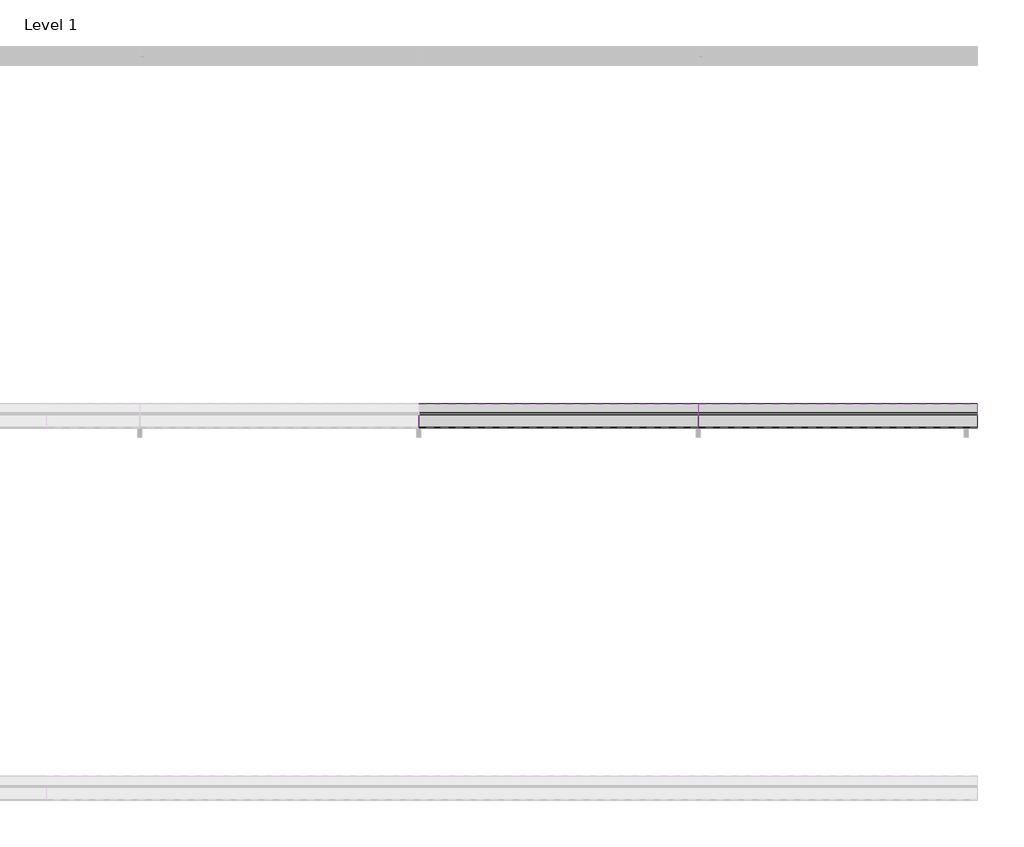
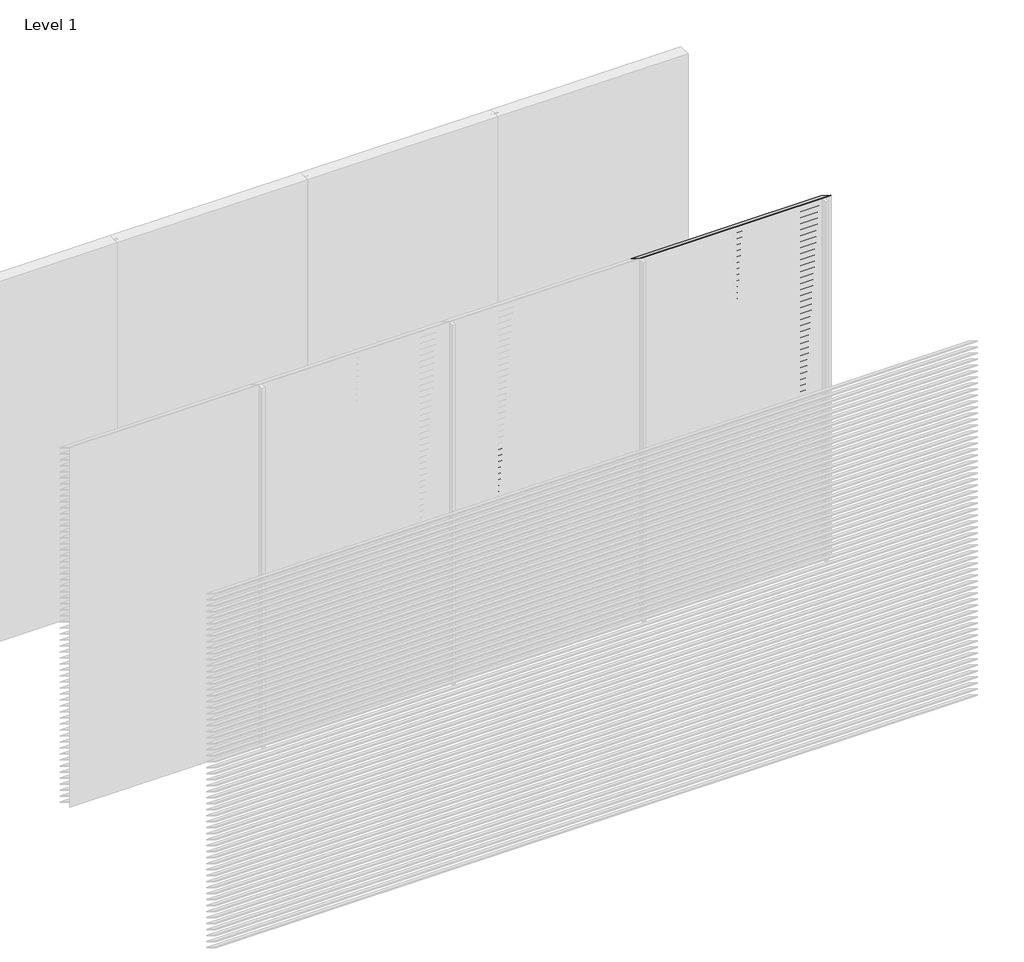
# One storey, part 10 of 13: 96 proxies.
"""IFC4 building model written with IfcOpenShell, lengths in millimetres."""

from ifc_helpers import new_model, si_unit, frame, origin, place, context, project, spatial, polyline, outline, extrude, element, save

model = new_model("IFC4")

# Units and contexts
model_context = context("Model", 3, world=origin())
ifc_project = project(units=[si_unit("LENGTHUNIT", "METRE", prefix="MILLI")], contexts=[model_context])

# Site, building, storey
site = spatial("IfcSite", under=ifc_project)
building = spatial("IfcBuilding", under=site)
storey = spatial("IfcBuildingStorey", under=building, Name="Level 1", Elevation=0.0)

# Proxies
placement = place(None, origin())
element("IfcBuildingElementProxy", 1, Name="Wall Sweeps", at=placement, inside=storey, context=model_context, shape_type="SweptSolid", body=[
    extrude(outline(polyline([(-5995.0, 1800.0), (-5995.0, 1798.0), (-5868.0, 1719.0), (-5868.0, 1713.0), (-5997.0, 1793.2440945), (-5997.0, 1800.0), (-5995.0, 1800.0)])), frame((3000.0, 0.0, 0.0), z_axis=(1.0, 0.0, 0.0), x_axis=(0.0, 1.0, 0.0)), (0.0, 0.0, 1.0), 1500.0),
])
element("IfcBuildingElementProxy", 2, Name="Wall Sweeps", at=placement, inside=storey, context=model_context, shape_type="SweptSolid", body=[
    extrude(outline(polyline([(-5995.0, 1750.0), (-5995.0, 1748.0), (-5868.0, 1669.0), (-5868.0, 1663.0), (-5997.0, 1743.2440945), (-5997.0, 1750.0), (-5995.0, 1750.0)])), frame((3000.0, 0.0, 0.0), z_axis=(1.0, 0.0, 0.0), x_axis=(0.0, 1.0, 0.0)), (0.0, 0.0, 1.0), 1500.0),
])
element("IfcBuildingElementProxy", 3, Name="Wall Sweeps", at=placement, inside=storey, context=model_context, shape_type="SweptSolid", body=[
    extrude(outline(polyline([(-5995.0, 1700.0), (-5995.0, 1698.0), (-5868.0, 1619.0), (-5868.0, 1613.0), (-5997.0, 1693.2440945), (-5997.0, 1700.0), (-5995.0, 1700.0)])), frame((3000.0, 0.0, 0.0), z_axis=(1.0, 0.0, 0.0), x_axis=(0.0, 1.0, 0.0)), (0.0, 0.0, 1.0), 1500.0),
])
element("IfcBuildingElementProxy", 4, Name="Wall Sweeps", at=placement, inside=storey, context=model_context, shape_type="SweptSolid", body=[
    extrude(outline(polyline([(-5995.0, 1650.0), (-5995.0, 1648.0), (-5868.0, 1569.0), (-5868.0, 1563.0), (-5997.0, 1643.2440945), (-5997.0, 1650.0), (-5995.0, 1650.0)])), frame((3000.0, 0.0, 0.0), z_axis=(1.0, 0.0, 0.0), x_axis=(0.0, 1.0, 0.0)), (0.0, 0.0, 1.0), 1500.0),
])
element("IfcBuildingElementProxy", 5, Name="Wall Sweeps", at=placement, inside=storey, context=model_context, shape_type="SweptSolid", body=[
    extrude(outline(polyline([(-5995.0, 1600.0), (-5995.0, 1598.0), (-5868.0, 1519.0), (-5868.0, 1513.0), (-5997.0, 1593.2440945), (-5997.0, 1600.0), (-5995.0, 1600.0)])), frame((3000.0, 0.0, 0.0), z_axis=(1.0, 0.0, 0.0), x_axis=(0.0, 1.0, 0.0)), (0.0, 0.0, 1.0), 1500.0),
])
element("IfcBuildingElementProxy", 6, Name="Wall Sweeps", at=placement, inside=storey, context=model_context, shape_type="SweptSolid", body=[
    extrude(outline(polyline([(-5995.0, 1550.0), (-5995.0, 1548.0), (-5868.0, 1469.0), (-5868.0, 1463.0), (-5997.0, 1543.2440945), (-5997.0, 1550.0), (-5995.0, 1550.0)])), frame((3000.0, 0.0, 0.0), z_axis=(1.0, 0.0, 0.0), x_axis=(0.0, 1.0, 0.0)), (0.0, 0.0, 1.0), 1500.0),
])
element("IfcBuildingElementProxy", 7, Name="Wall Sweeps", at=placement, inside=storey, context=model_context, shape_type="SweptSolid", body=[
    extrude(outline(polyline([(-5995.0, 1500.0), (-5995.0, 1498.0), (-5868.0, 1419.0), (-5868.0, 1413.0), (-5997.0, 1493.2440945), (-5997.0, 1500.0), (-5995.0, 1500.0)])), frame((3000.0, 0.0, 0.0), z_axis=(1.0, 0.0, 0.0), x_axis=(0.0, 1.0, 0.0)), (0.0, 0.0, 1.0), 1500.0),
])
element("IfcBuildingElementProxy", 8, Name="Wall Sweeps", at=placement, inside=storey, context=model_context, shape_type="SweptSolid", body=[
    extrude(outline(polyline([(-5995.0, 1450.0), (-5995.0, 1448.0), (-5868.0, 1369.0), (-5868.0, 1363.0), (-5997.0, 1443.2440945), (-5997.0, 1450.0), (-5995.0, 1450.0)])), frame((3000.0, 0.0, 0.0), z_axis=(1.0, 0.0, 0.0), x_axis=(0.0, 1.0, 0.0)), (0.0, 0.0, 1.0), 1500.0),
])
element("IfcBuildingElementProxy", 9, Name="Wall Sweeps", at=placement, inside=storey, context=model_context, shape_type="SweptSolid", body=[
    extrude(outline(polyline([(-5995.0, 1400.0), (-5995.0, 1398.0), (-5868.0, 1319.0), (-5868.0, 1313.0), (-5997.0, 1393.2440945), (-5997.0, 1400.0), (-5995.0, 1400.0)])), frame((3000.0, 0.0, 0.0), z_axis=(1.0, 0.0, 0.0), x_axis=(0.0, 1.0, 0.0)), (0.0, 0.0, 1.0), 1500.0),
])
element("IfcBuildingElementProxy", 10, Name="Wall Sweeps", at=placement, inside=storey, context=model_context, shape_type="SweptSolid", body=[
    extrude(outline(polyline([(-5995.0, 1350.0), (-5995.0, 1348.0), (-5868.0, 1269.0), (-5868.0, 1263.0), (-5997.0, 1343.2440945), (-5997.0, 1350.0), (-5995.0, 1350.0)])), frame((3000.0, 0.0, 0.0), z_axis=(1.0, 0.0, 0.0), x_axis=(0.0, 1.0, 0.0)), (0.0, 0.0, 1.0), 1500.0),
])
element("IfcBuildingElementProxy", 11, Name="Wall Sweeps", at=placement, inside=storey, context=model_context, shape_type="SweptSolid", body=[
    extrude(outline(polyline([(-5995.0, 1300.0), (-5995.0, 1298.0), (-5868.0, 1219.0), (-5868.0, 1213.0), (-5997.0, 1293.2440945), (-5997.0, 1300.0), (-5995.0, 1300.0)])), frame((3000.0, 0.0, 0.0), z_axis=(1.0, 0.0, 0.0), x_axis=(0.0, 1.0, 0.0)), (0.0, 0.0, 1.0), 1500.0),
])
element("IfcBuildingElementProxy", 12, Name="Wall Sweeps", at=placement, inside=storey, context=model_context, shape_type="SweptSolid", body=[
    extrude(outline(polyline([(-5995.0, 1250.0), (-5995.0, 1248.0), (-5868.0, 1169.0), (-5868.0, 1163.0), (-5997.0, 1243.2440945), (-5997.0, 1250.0), (-5995.0, 1250.0)])), frame((3000.0, 0.0, 0.0), z_axis=(1.0, 0.0, 0.0), x_axis=(0.0, 1.0, 0.0)), (0.0, 0.0, 1.0), 1500.0),
])
element("IfcBuildingElementProxy", 13, Name="Wall Sweeps", at=placement, inside=storey, context=model_context, shape_type="SweptSolid", body=[
    extrude(outline(polyline([(-5995.0, 1200.0), (-5995.0, 1198.0), (-5868.0, 1119.0), (-5868.0, 1113.0), (-5997.0, 1193.2440945), (-5997.0, 1200.0), (-5995.0, 1200.0)])), frame((3000.0, 0.0, 0.0), z_axis=(1.0, 0.0, 0.0), x_axis=(0.0, 1.0, 0.0)), (0.0, 0.0, 1.0), 1500.0),
])
element("IfcBuildingElementProxy", 14, Name="Wall Sweeps", at=placement, inside=storey, context=model_context, shape_type="SweptSolid", body=[
    extrude(outline(polyline([(-5995.0, 1150.0), (-5995.0, 1148.0), (-5868.0, 1069.0), (-5868.0, 1063.0), (-5997.0, 1143.2440945), (-5997.0, 1150.0), (-5995.0, 1150.0)])), frame((3000.0, 0.0, 0.0), z_axis=(1.0, 0.0, 0.0), x_axis=(0.0, 1.0, 0.0)), (0.0, 0.0, 1.0), 1500.0),
])
element("IfcBuildingElementProxy", 15, Name="Wall Sweeps", at=placement, inside=storey, context=model_context, shape_type="SweptSolid", body=[
    extrude(outline(polyline([(-5995.0, 1100.0), (-5995.0, 1098.0), (-5868.0, 1019.0), (-5868.0, 1013.0), (-5997.0, 1093.2440945), (-5997.0, 1100.0), (-5995.0, 1100.0)])), frame((3000.0, 0.0, 0.0), z_axis=(1.0, 0.0, 0.0), x_axis=(0.0, 1.0, 0.0)), (0.0, 0.0, 1.0), 1500.0),
])
element("IfcBuildingElementProxy", 16, Name="Wall Sweeps", at=placement, inside=storey, context=model_context, shape_type="SweptSolid", body=[
    extrude(outline(polyline([(-5995.0, 1050.0), (-5995.0, 1048.0), (-5868.0, 969.0), (-5868.0, 963.0), (-5997.0, 1043.2440945), (-5997.0, 1050.0), (-5995.0, 1050.0)])), frame((3000.0, 0.0, 0.0), z_axis=(1.0, 0.0, 0.0), x_axis=(0.0, 1.0, 0.0)), (0.0, 0.0, 1.0), 1500.0),
])
element("IfcBuildingElementProxy", 17, Name="Wall Sweeps", at=placement, inside=storey, context=model_context, shape_type="SweptSolid", body=[
    extrude(outline(polyline([(-5995.0, 1000.0), (-5995.0, 998.0), (-5868.0, 919.0), (-5868.0, 913.0), (-5997.0, 993.2440945), (-5997.0, 1000.0), (-5995.0, 1000.0)])), frame((3000.0, 0.0, 0.0), z_axis=(1.0, 0.0, 0.0), x_axis=(0.0, 1.0, 0.0)), (0.0, 0.0, 1.0), 1500.0),
])
element("IfcBuildingElementProxy", 18, Name="Wall Sweeps", at=placement, inside=storey, context=model_context, shape_type="SweptSolid", body=[
    extrude(outline(polyline([(-5995.0, 950.0), (-5995.0, 948.0), (-5868.0, 869.0), (-5868.0, 863.0), (-5997.0, 943.2440945), (-5997.0, 950.0), (-5995.0, 950.0)])), frame((3000.0, 0.0, 0.0), z_axis=(1.0, 0.0, 0.0), x_axis=(0.0, 1.0, 0.0)), (0.0, 0.0, 1.0), 1500.0),
])
element("IfcBuildingElementProxy", 19, Name="Wall Sweeps", at=placement, inside=storey, context=model_context, shape_type="SweptSolid", body=[
    extrude(outline(polyline([(-5995.0, 900.0), (-5995.0, 898.0), (-5868.0, 819.0), (-5868.0, 813.0), (-5997.0, 893.2440945), (-5997.0, 900.0), (-5995.0, 900.0)])), frame((3000.0, 0.0, 0.0), z_axis=(1.0, 0.0, 0.0), x_axis=(0.0, 1.0, 0.0)), (0.0, 0.0, 1.0), 1500.0),
])
element("IfcBuildingElementProxy", 20, Name="Wall Sweeps", at=placement, inside=storey, context=model_context, shape_type="SweptSolid", body=[
    extrude(outline(polyline([(-5995.0, 850.0), (-5995.0, 848.0), (-5868.0, 769.0), (-5868.0, 763.0), (-5997.0, 843.2440945), (-5997.0, 850.0), (-5995.0, 850.0)])), frame((3000.0, 0.0, 0.0), z_axis=(1.0, 0.0, 0.0), x_axis=(0.0, 1.0, 0.0)), (0.0, 0.0, 1.0), 1500.0),
])
element("IfcBuildingElementProxy", 21, Name="Wall Sweeps", at=placement, inside=storey, context=model_context, shape_type="SweptSolid", body=[
    extrude(outline(polyline([(-5995.0, 800.0), (-5995.0, 798.0), (-5868.0, 719.0), (-5868.0, 713.0), (-5997.0, 793.2440945), (-5997.0, 800.0), (-5995.0, 800.0)])), frame((3000.0, 0.0, 0.0), z_axis=(1.0, 0.0, 0.0), x_axis=(0.0, 1.0, 0.0)), (0.0, 0.0, 1.0), 1500.0),
])
element("IfcBuildingElementProxy", 22, Name="Wall Sweeps", at=placement, inside=storey, context=model_context, shape_type="SweptSolid", body=[
    extrude(outline(polyline([(-5995.0, 750.0), (-5995.0, 748.0), (-5868.0, 669.0), (-5868.0, 663.0), (-5997.0, 743.2440945), (-5997.0, 750.0), (-5995.0, 750.0)])), frame((3000.0, 0.0, 0.0), z_axis=(1.0, 0.0, 0.0), x_axis=(0.0, 1.0, 0.0)), (0.0, 0.0, 1.0), 1500.0),
])
element("IfcBuildingElementProxy", 23, Name="Wall Sweeps", at=placement, inside=storey, context=model_context, shape_type="SweptSolid", body=[
    extrude(outline(polyline([(-5995.0, 700.0), (-5995.0, 698.0), (-5868.0, 619.0), (-5868.0, 613.0), (-5997.0, 693.2440945), (-5997.0, 700.0), (-5995.0, 700.0)])), frame((3000.0, 0.0, 0.0), z_axis=(1.0, 0.0, 0.0), x_axis=(0.0, 1.0, 0.0)), (0.0, 0.0, 1.0), 1500.0),
])
element("IfcBuildingElementProxy", 24, Name="Wall Sweeps", at=placement, inside=storey, context=model_context, shape_type="SweptSolid", body=[
    extrude(outline(polyline([(-5995.0, 650.0), (-5995.0, 648.0), (-5868.0, 569.0), (-5868.0, 563.0), (-5997.0, 643.2440945), (-5997.0, 650.0), (-5995.0, 650.0)])), frame((3000.0, 0.0, 0.0), z_axis=(1.0, 0.0, 0.0), x_axis=(0.0, 1.0, 0.0)), (0.0, 0.0, 1.0), 1500.0),
])
element("IfcBuildingElementProxy", 25, Name="Wall Sweeps", at=placement, inside=storey, context=model_context, shape_type="SweptSolid", body=[
    extrude(outline(polyline([(-5995.0, 600.0), (-5995.0, 598.0), (-5868.0, 519.0), (-5868.0, 513.0), (-5997.0, 593.2440945), (-5997.0, 600.0), (-5995.0, 600.0)])), frame((3000.0, 0.0, 0.0), z_axis=(1.0, 0.0, 0.0), x_axis=(0.0, 1.0, 0.0)), (0.0, 0.0, 1.0), 1500.0),
])
element("IfcBuildingElementProxy", 26, Name="Wall Sweeps", at=placement, inside=storey, context=model_context, shape_type="SweptSolid", body=[
    extrude(outline(polyline([(-5995.0, 550.0), (-5995.0, 548.0), (-5868.0, 469.0), (-5868.0, 463.0), (-5997.0, 543.2440945), (-5997.0, 550.0), (-5995.0, 550.0)])), frame((3000.0, 0.0, 0.0), z_axis=(1.0, 0.0, 0.0), x_axis=(0.0, 1.0, 0.0)), (0.0, 0.0, 1.0), 1500.0),
])
element("IfcBuildingElementProxy", 27, Name="Wall Sweeps", at=placement, inside=storey, context=model_context, shape_type="SweptSolid", body=[
    extrude(outline(polyline([(-5995.0, 500.0), (-5995.0, 498.0), (-5868.0, 419.0), (-5868.0, 413.0), (-5997.0, 493.2440945), (-5997.0, 500.0), (-5995.0, 500.0)])), frame((3000.0, 0.0, 0.0), z_axis=(1.0, 0.0, 0.0), x_axis=(0.0, 1.0, 0.0)), (0.0, 0.0, 1.0), 1500.0),
])
element("IfcBuildingElementProxy", 28, Name="Wall Sweeps", at=placement, inside=storey, context=model_context, shape_type="SweptSolid", body=[
    extrude(outline(polyline([(-5995.0, 450.0), (-5995.0, 448.0), (-5868.0, 369.0), (-5868.0, 363.0), (-5997.0, 443.2440945), (-5997.0, 450.0), (-5995.0, 450.0)])), frame((3000.0, 0.0, 0.0), z_axis=(1.0, 0.0, 0.0), x_axis=(0.0, 1.0, 0.0)), (0.0, 0.0, 1.0), 1500.0),
])
element("IfcBuildingElementProxy", 29, Name="Wall Sweeps", at=placement, inside=storey, context=model_context, shape_type="SweptSolid", body=[
    extrude(outline(polyline([(-5995.0, 400.0), (-5995.0, 398.0), (-5868.0, 319.0), (-5868.0, 313.0), (-5997.0, 393.2440945), (-5997.0, 400.0), (-5995.0, 400.0)])), frame((3000.0, 0.0, 0.0), z_axis=(1.0, 0.0, 0.0), x_axis=(0.0, 1.0, 0.0)), (0.0, 0.0, 1.0), 1500.0),
])
element("IfcBuildingElementProxy", 30, Name="Wall Sweeps", at=placement, inside=storey, context=model_context, shape_type="SweptSolid", body=[
    extrude(outline(polyline([(-5995.0, 350.0), (-5995.0, 348.0), (-5868.0, 269.0), (-5868.0, 263.0), (-5997.0, 343.2440945), (-5997.0, 350.0), (-5995.0, 350.0)])), frame((3000.0, 0.0, 0.0), z_axis=(1.0, 0.0, 0.0), x_axis=(0.0, 1.0, 0.0)), (0.0, 0.0, 1.0), 1500.0),
])
element("IfcBuildingElementProxy", 31, Name="Wall Sweeps", at=placement, inside=storey, context=model_context, shape_type="SweptSolid", body=[
    extrude(outline(polyline([(-5995.0, 300.0), (-5995.0, 298.0), (-5868.0, 219.0), (-5868.0, 213.0), (-5997.0, 293.2440945), (-5997.0, 300.0), (-5995.0, 300.0)])), frame((3000.0, 0.0, 0.0), z_axis=(1.0, 0.0, 0.0), x_axis=(0.0, 1.0, 0.0)), (0.0, 0.0, 1.0), 1500.0),
])
element("IfcBuildingElementProxy", 32, Name="Wall Sweeps", at=placement, inside=storey, context=model_context, shape_type="SweptSolid", body=[
    extrude(outline(polyline([(-5995.0, 250.0), (-5995.0, 248.0), (-5868.0, 169.0), (-5868.0, 163.0), (-5997.0, 243.2440945), (-5997.0, 250.0), (-5995.0, 250.0)])), frame((3000.0, 0.0, 0.0), z_axis=(1.0, 0.0, 0.0), x_axis=(0.0, 1.0, 0.0)), (0.0, 0.0, 1.0), 1500.0),
])
element("IfcBuildingElementProxy", 33, Name="Wall Sweeps", at=placement, inside=storey, context=model_context, shape_type="SweptSolid", body=[
    extrude(outline(polyline([(-5995.0, 200.0), (-5995.0, 198.0), (-5868.0, 119.0), (-5868.0, 113.0), (-5997.0, 193.2440945), (-5997.0, 200.0), (-5995.0, 200.0)])), frame((3000.0, 0.0, 0.0), z_axis=(1.0, 0.0, 0.0), x_axis=(0.0, 1.0, 0.0)), (0.0, 0.0, 1.0), 1500.0),
])
element("IfcBuildingElementProxy", 34, Name="Wall Sweeps", at=placement, inside=storey, context=model_context, shape_type="SweptSolid", body=[
    extrude(outline(polyline([(-5995.0, 150.0), (-5995.0, 148.0), (-5868.0, 69.0), (-5868.0, 63.0), (-5997.0, 143.2440945), (-5997.0, 150.0), (-5995.0, 150.0)])), frame((3000.0, 0.0, 0.0), z_axis=(1.0, 0.0, 0.0), x_axis=(0.0, 1.0, 0.0)), (0.0, 0.0, 1.0), 1500.0),
])
element("IfcBuildingElementProxy", 35, Name="Wall Sweeps", at=placement, inside=storey, context=model_context, shape_type="SweptSolid", body=[
    extrude(outline(polyline([(-5995.0, 100.0), (-5995.0, 98.0), (-5868.0, 19.0), (-5868.0, 13.0), (-5997.0, 93.2440945), (-5997.0, 100.0), (-5995.0, 100.0)])), frame((3000.0, 0.0, 0.0), z_axis=(1.0, 0.0, 0.0), x_axis=(0.0, 1.0, 0.0)), (0.0, 0.0, 1.0), 1500.0),
])
element("IfcBuildingElementProxy", 36, Name="Wall Sweeps", at=placement, inside=storey, context=model_context, shape_type="SweptSolid", body=[
    extrude(outline(polyline([(-5995.0, 50.0), (-5995.0, 48.0), (-5868.0, -31.0), (-5868.0, -37.0), (-5997.0, 43.2440945), (-5997.0, 50.0), (-5995.0, 50.0)])), frame((3000.0, 0.0, 0.0), z_axis=(1.0, 0.0, 0.0), x_axis=(0.0, 1.0, 0.0)), (0.0, 0.0, 1.0), 1500.0),
])
element("IfcBuildingElementProxy", 37, Name="Wall Sweeps", at=placement, inside=storey, context=model_context, shape_type="SweptSolid", body=[
    extrude(outline(polyline([(-5995.0, 3000.0), (-5995.0, 2998.0), (-5868.0, 2919.0), (-5868.0, 2913.0), (-5997.0, 2993.2440945), (-5997.0, 3000.0), (-5995.0, 3000.0)])), frame((4500.0, 0.0, 0.0), z_axis=(1.0, 0.0, 0.0), x_axis=(0.0, 1.0, 0.0)), (0.0, 0.0, 1.0), 1500.0),
])
element("IfcBuildingElementProxy", 38, Name="Wall Sweeps", at=placement, inside=storey, context=model_context, shape_type="SweptSolid", body=[
    extrude(outline(polyline([(-5995.0, 2950.0), (-5995.0, 2948.0), (-5868.0, 2869.0), (-5868.0, 2863.0), (-5997.0, 2943.2440945), (-5997.0, 2950.0), (-5995.0, 2950.0)])), frame((4500.0, 0.0, 0.0), z_axis=(1.0, 0.0, 0.0), x_axis=(0.0, 1.0, 0.0)), (0.0, 0.0, 1.0), 1500.0),
])
element("IfcBuildingElementProxy", 39, Name="Wall Sweeps", at=placement, inside=storey, context=model_context, shape_type="SweptSolid", body=[
    extrude(outline(polyline([(-5995.0, 2900.0), (-5995.0, 2898.0), (-5868.0, 2819.0), (-5868.0, 2813.0), (-5997.0, 2893.2440945), (-5997.0, 2900.0), (-5995.0, 2900.0)])), frame((4500.0, 0.0, 0.0), z_axis=(1.0, 0.0, 0.0), x_axis=(0.0, 1.0, 0.0)), (0.0, 0.0, 1.0), 1500.0),
])
element("IfcBuildingElementProxy", 40, Name="Wall Sweeps", at=placement, inside=storey, context=model_context, shape_type="SweptSolid", body=[
    extrude(outline(polyline([(-5995.0, 2850.0), (-5995.0, 2848.0), (-5868.0, 2769.0), (-5868.0, 2763.0), (-5997.0, 2843.2440945), (-5997.0, 2850.0), (-5995.0, 2850.0)])), frame((4500.0, 0.0, 0.0), z_axis=(1.0, 0.0, 0.0), x_axis=(0.0, 1.0, 0.0)), (0.0, 0.0, 1.0), 1500.0),
])
element("IfcBuildingElementProxy", 41, Name="Wall Sweeps", at=placement, inside=storey, context=model_context, shape_type="SweptSolid", body=[
    extrude(outline(polyline([(-5995.0, 2800.0), (-5995.0, 2798.0), (-5868.0, 2719.0), (-5868.0, 2713.0), (-5997.0, 2793.2440945), (-5997.0, 2800.0), (-5995.0, 2800.0)])), frame((4500.0, 0.0, 0.0), z_axis=(1.0, 0.0, 0.0), x_axis=(0.0, 1.0, 0.0)), (0.0, 0.0, 1.0), 1500.0),
])
element("IfcBuildingElementProxy", 42, Name="Wall Sweeps", at=placement, inside=storey, context=model_context, shape_type="SweptSolid", body=[
    extrude(outline(polyline([(-5995.0, 2750.0), (-5995.0, 2748.0), (-5868.0, 2669.0), (-5868.0, 2663.0), (-5997.0, 2743.2440945), (-5997.0, 2750.0), (-5995.0, 2750.0)])), frame((4500.0, 0.0, 0.0), z_axis=(1.0, 0.0, 0.0), x_axis=(0.0, 1.0, 0.0)), (0.0, 0.0, 1.0), 1500.0),
])
element("IfcBuildingElementProxy", 43, Name="Wall Sweeps", at=placement, inside=storey, context=model_context, shape_type="SweptSolid", body=[
    extrude(outline(polyline([(-5995.0, 2700.0), (-5995.0, 2698.0), (-5868.0, 2619.0), (-5868.0, 2613.0), (-5997.0, 2693.2440945), (-5997.0, 2700.0), (-5995.0, 2700.0)])), frame((4500.0, 0.0, 0.0), z_axis=(1.0, 0.0, 0.0), x_axis=(0.0, 1.0, 0.0)), (0.0, 0.0, 1.0), 1500.0),
])
element("IfcBuildingElementProxy", 44, Name="Wall Sweeps", at=placement, inside=storey, context=model_context, shape_type="SweptSolid", body=[
    extrude(outline(polyline([(-5995.0, 2650.0), (-5995.0, 2648.0), (-5868.0, 2569.0), (-5868.0, 2563.0), (-5997.0, 2643.2440945), (-5997.0, 2650.0), (-5995.0, 2650.0)])), frame((4500.0, 0.0, 0.0), z_axis=(1.0, 0.0, 0.0), x_axis=(0.0, 1.0, 0.0)), (0.0, 0.0, 1.0), 1500.0),
])
element("IfcBuildingElementProxy", 45, Name="Wall Sweeps", at=placement, inside=storey, context=model_context, shape_type="SweptSolid", body=[
    extrude(outline(polyline([(-5995.0, 2600.0), (-5995.0, 2598.0), (-5868.0, 2519.0), (-5868.0, 2513.0), (-5997.0, 2593.2440945), (-5997.0, 2600.0), (-5995.0, 2600.0)])), frame((4500.0, 0.0, 0.0), z_axis=(1.0, 0.0, 0.0), x_axis=(0.0, 1.0, 0.0)), (0.0, 0.0, 1.0), 1500.0),
])
element("IfcBuildingElementProxy", 46, Name="Wall Sweeps", at=placement, inside=storey, context=model_context, shape_type="SweptSolid", body=[
    extrude(outline(polyline([(-5995.0, 2550.0), (-5995.0, 2548.0), (-5868.0, 2469.0), (-5868.0, 2463.0), (-5997.0, 2543.2440945), (-5997.0, 2550.0), (-5995.0, 2550.0)])), frame((4500.0, 0.0, 0.0), z_axis=(1.0, 0.0, 0.0), x_axis=(0.0, 1.0, 0.0)), (0.0, 0.0, 1.0), 1500.0),
])
element("IfcBuildingElementProxy", 47, Name="Wall Sweeps", at=placement, inside=storey, context=model_context, shape_type="SweptSolid", body=[
    extrude(outline(polyline([(-5995.0, 2500.0), (-5995.0, 2498.0), (-5868.0, 2419.0), (-5868.0, 2413.0), (-5997.0, 2493.2440945), (-5997.0, 2500.0), (-5995.0, 2500.0)])), frame((4500.0, 0.0, 0.0), z_axis=(1.0, 0.0, 0.0), x_axis=(0.0, 1.0, 0.0)), (0.0, 0.0, 1.0), 1500.0),
])
element("IfcBuildingElementProxy", 48, Name="Wall Sweeps", at=placement, inside=storey, context=model_context, shape_type="SweptSolid", body=[
    extrude(outline(polyline([(-5995.0, 2450.0), (-5995.0, 2448.0), (-5868.0, 2369.0), (-5868.0, 2363.0), (-5997.0, 2443.2440945), (-5997.0, 2450.0), (-5995.0, 2450.0)])), frame((4500.0, 0.0, 0.0), z_axis=(1.0, 0.0, 0.0), x_axis=(0.0, 1.0, 0.0)), (0.0, 0.0, 1.0), 1500.0),
])
element("IfcBuildingElementProxy", 49, Name="Wall Sweeps", at=placement, inside=storey, context=model_context, shape_type="SweptSolid", body=[
    extrude(outline(polyline([(-5995.0, 2400.0), (-5995.0, 2398.0), (-5868.0, 2319.0), (-5868.0, 2313.0), (-5997.0, 2393.2440945), (-5997.0, 2400.0), (-5995.0, 2400.0)])), frame((4500.0, 0.0, 0.0), z_axis=(1.0, 0.0, 0.0), x_axis=(0.0, 1.0, 0.0)), (0.0, 0.0, 1.0), 1500.0),
])
element("IfcBuildingElementProxy", 50, Name="Wall Sweeps", at=placement, inside=storey, context=model_context, shape_type="SweptSolid", body=[
    extrude(outline(polyline([(-5995.0, 2350.0), (-5995.0, 2348.0), (-5868.0, 2269.0), (-5868.0, 2263.0), (-5997.0, 2343.2440945), (-5997.0, 2350.0), (-5995.0, 2350.0)])), frame((4500.0, 0.0, 0.0), z_axis=(1.0, 0.0, 0.0), x_axis=(0.0, 1.0, 0.0)), (0.0, 0.0, 1.0), 1500.0),
])
element("IfcBuildingElementProxy", 51, Name="Wall Sweeps", at=placement, inside=storey, context=model_context, shape_type="SweptSolid", body=[
    extrude(outline(polyline([(-5995.0, 2300.0), (-5995.0, 2298.0), (-5868.0, 2219.0), (-5868.0, 2213.0), (-5997.0, 2293.2440945), (-5997.0, 2300.0), (-5995.0, 2300.0)])), frame((4500.0, 0.0, 0.0), z_axis=(1.0, 0.0, 0.0), x_axis=(0.0, 1.0, 0.0)), (0.0, 0.0, 1.0), 1500.0),
])
element("IfcBuildingElementProxy", 52, Name="Wall Sweeps", at=placement, inside=storey, context=model_context, shape_type="SweptSolid", body=[
    extrude(outline(polyline([(-5995.0, 2250.0), (-5995.0, 2248.0), (-5868.0, 2169.0), (-5868.0, 2163.0), (-5997.0, 2243.2440945), (-5997.0, 2250.0), (-5995.0, 2250.0)])), frame((4500.0, 0.0, 0.0), z_axis=(1.0, 0.0, 0.0), x_axis=(0.0, 1.0, 0.0)), (0.0, 0.0, 1.0), 1500.0),
])
element("IfcBuildingElementProxy", 53, Name="Wall Sweeps", at=placement, inside=storey, context=model_context, shape_type="SweptSolid", body=[
    extrude(outline(polyline([(-5995.0, 2200.0), (-5995.0, 2198.0), (-5868.0, 2119.0), (-5868.0, 2113.0), (-5997.0, 2193.2440945), (-5997.0, 2200.0), (-5995.0, 2200.0)])), frame((4500.0, 0.0, 0.0), z_axis=(1.0, 0.0, 0.0), x_axis=(0.0, 1.0, 0.0)), (0.0, 0.0, 1.0), 1500.0),
])
element("IfcBuildingElementProxy", 54, Name="Wall Sweeps", at=placement, inside=storey, context=model_context, shape_type="SweptSolid", body=[
    extrude(outline(polyline([(-5995.0, 2150.0), (-5995.0, 2148.0), (-5868.0, 2069.0), (-5868.0, 2063.0), (-5997.0, 2143.2440945), (-5997.0, 2150.0), (-5995.0, 2150.0)])), frame((4500.0, 0.0, 0.0), z_axis=(1.0, 0.0, 0.0), x_axis=(0.0, 1.0, 0.0)), (0.0, 0.0, 1.0), 1500.0),
])
element("IfcBuildingElementProxy", 55, Name="Wall Sweeps", at=placement, inside=storey, context=model_context, shape_type="SweptSolid", body=[
    extrude(outline(polyline([(-5995.0, 2100.0), (-5995.0, 2098.0), (-5868.0, 2019.0), (-5868.0, 2013.0), (-5997.0, 2093.2440945), (-5997.0, 2100.0), (-5995.0, 2100.0)])), frame((4500.0, 0.0, 0.0), z_axis=(1.0, 0.0, 0.0), x_axis=(0.0, 1.0, 0.0)), (0.0, 0.0, 1.0), 1500.0),
])
element("IfcBuildingElementProxy", 56, Name="Wall Sweeps", at=placement, inside=storey, context=model_context, shape_type="SweptSolid", body=[
    extrude(outline(polyline([(-5995.0, 2050.0), (-5995.0, 2048.0), (-5868.0, 1969.0), (-5868.0, 1963.0), (-5997.0, 2043.2440945), (-5997.0, 2050.0), (-5995.0, 2050.0)])), frame((4500.0, 0.0, 0.0), z_axis=(1.0, 0.0, 0.0), x_axis=(0.0, 1.0, 0.0)), (0.0, 0.0, 1.0), 1500.0),
])
element("IfcBuildingElementProxy", 57, Name="Wall Sweeps", at=placement, inside=storey, context=model_context, shape_type="SweptSolid", body=[
    extrude(outline(polyline([(-5995.0, 2000.0), (-5995.0, 1998.0), (-5868.0, 1919.0), (-5868.0, 1913.0), (-5997.0, 1993.2440945), (-5997.0, 2000.0), (-5995.0, 2000.0)])), frame((4500.0, 0.0, 0.0), z_axis=(1.0, 0.0, 0.0), x_axis=(0.0, 1.0, 0.0)), (0.0, 0.0, 1.0), 1500.0),
])
element("IfcBuildingElementProxy", 58, Name="Wall Sweeps", at=placement, inside=storey, context=model_context, shape_type="SweptSolid", body=[
    extrude(outline(polyline([(-5995.0, 1950.0), (-5995.0, 1948.0), (-5868.0, 1869.0), (-5868.0, 1863.0), (-5997.0, 1943.2440945), (-5997.0, 1950.0), (-5995.0, 1950.0)])), frame((4500.0, 0.0, 0.0), z_axis=(1.0, 0.0, 0.0), x_axis=(0.0, 1.0, 0.0)), (0.0, 0.0, 1.0), 1500.0),
])
element("IfcBuildingElementProxy", 59, Name="Wall Sweeps", at=placement, inside=storey, context=model_context, shape_type="SweptSolid", body=[
    extrude(outline(polyline([(-5995.0, 1900.0), (-5995.0, 1898.0), (-5868.0, 1819.0), (-5868.0, 1813.0), (-5997.0, 1893.2440945), (-5997.0, 1900.0), (-5995.0, 1900.0)])), frame((4500.0, 0.0, 0.0), z_axis=(1.0, 0.0, 0.0), x_axis=(0.0, 1.0, 0.0)), (0.0, 0.0, 1.0), 1500.0),
])
element("IfcBuildingElementProxy", 60, Name="Wall Sweeps", at=placement, inside=storey, context=model_context, shape_type="SweptSolid", body=[
    extrude(outline(polyline([(-5995.0, 1850.0), (-5995.0, 1848.0), (-5868.0, 1769.0), (-5868.0, 1763.0), (-5997.0, 1843.2440945), (-5997.0, 1850.0), (-5995.0, 1850.0)])), frame((4500.0, 0.0, 0.0), z_axis=(1.0, 0.0, 0.0), x_axis=(0.0, 1.0, 0.0)), (0.0, 0.0, 1.0), 1500.0),
])
element("IfcBuildingElementProxy", 61, Name="Wall Sweeps", at=placement, inside=storey, context=model_context, shape_type="SweptSolid", body=[
    extrude(outline(polyline([(-5995.0, 1800.0), (-5995.0, 1798.0), (-5868.0, 1719.0), (-5868.0, 1713.0), (-5997.0, 1793.2440945), (-5997.0, 1800.0), (-5995.0, 1800.0)])), frame((4500.0, 0.0, 0.0), z_axis=(1.0, 0.0, 0.0), x_axis=(0.0, 1.0, 0.0)), (0.0, 0.0, 1.0), 1500.0),
])
element("IfcBuildingElementProxy", 62, Name="Wall Sweeps", at=placement, inside=storey, context=model_context, shape_type="SweptSolid", body=[
    extrude(outline(polyline([(-5995.0, 1750.0), (-5995.0, 1748.0), (-5868.0, 1669.0), (-5868.0, 1663.0), (-5997.0, 1743.2440945), (-5997.0, 1750.0), (-5995.0, 1750.0)])), frame((4500.0, 0.0, 0.0), z_axis=(1.0, 0.0, 0.0), x_axis=(0.0, 1.0, 0.0)), (0.0, 0.0, 1.0), 1500.0),
])
element("IfcBuildingElementProxy", 63, Name="Wall Sweeps", at=placement, inside=storey, context=model_context, shape_type="SweptSolid", body=[
    extrude(outline(polyline([(-5995.0, 1700.0), (-5995.0, 1698.0), (-5868.0, 1619.0), (-5868.0, 1613.0), (-5997.0, 1693.2440945), (-5997.0, 1700.0), (-5995.0, 1700.0)])), frame((4500.0, 0.0, 0.0), z_axis=(1.0, 0.0, 0.0), x_axis=(0.0, 1.0, 0.0)), (0.0, 0.0, 1.0), 1500.0),
])
element("IfcBuildingElementProxy", 64, Name="Wall Sweeps", at=placement, inside=storey, context=model_context, shape_type="SweptSolid", body=[
    extrude(outline(polyline([(-5995.0, 1650.0), (-5995.0, 1648.0), (-5868.0, 1569.0), (-5868.0, 1563.0), (-5997.0, 1643.2440945), (-5997.0, 1650.0), (-5995.0, 1650.0)])), frame((4500.0, 0.0, 0.0), z_axis=(1.0, 0.0, 0.0), x_axis=(0.0, 1.0, 0.0)), (0.0, 0.0, 1.0), 1500.0),
])
element("IfcBuildingElementProxy", 65, Name="Wall Sweeps", at=placement, inside=storey, context=model_context, shape_type="SweptSolid", body=[
    extrude(outline(polyline([(-5995.0, 1600.0), (-5995.0, 1598.0), (-5868.0, 1519.0), (-5868.0, 1513.0), (-5997.0, 1593.2440945), (-5997.0, 1600.0), (-5995.0, 1600.0)])), frame((4500.0, 0.0, 0.0), z_axis=(1.0, 0.0, 0.0), x_axis=(0.0, 1.0, 0.0)), (0.0, 0.0, 1.0), 1500.0),
])
element("IfcBuildingElementProxy", 66, Name="Wall Sweeps", at=placement, inside=storey, context=model_context, shape_type="SweptSolid", body=[
    extrude(outline(polyline([(-5995.0, 1550.0), (-5995.0, 1548.0), (-5868.0, 1469.0), (-5868.0, 1463.0), (-5997.0, 1543.2440945), (-5997.0, 1550.0), (-5995.0, 1550.0)])), frame((4500.0, 0.0, 0.0), z_axis=(1.0, 0.0, 0.0), x_axis=(0.0, 1.0, 0.0)), (0.0, 0.0, 1.0), 1500.0),
])
element("IfcBuildingElementProxy", 67, Name="Wall Sweeps", at=placement, inside=storey, context=model_context, shape_type="SweptSolid", body=[
    extrude(outline(polyline([(-5995.0, 1500.0), (-5995.0, 1498.0), (-5868.0, 1419.0), (-5868.0, 1413.0), (-5997.0, 1493.2440945), (-5997.0, 1500.0), (-5995.0, 1500.0)])), frame((4500.0, 0.0, 0.0), z_axis=(1.0, 0.0, 0.0), x_axis=(0.0, 1.0, 0.0)), (0.0, 0.0, 1.0), 1500.0),
])
element("IfcBuildingElementProxy", 68, Name="Wall Sweeps", at=placement, inside=storey, context=model_context, shape_type="SweptSolid", body=[
    extrude(outline(polyline([(-5995.0, 1450.0), (-5995.0, 1448.0), (-5868.0, 1369.0), (-5868.0, 1363.0), (-5997.0, 1443.2440945), (-5997.0, 1450.0), (-5995.0, 1450.0)])), frame((4500.0, 0.0, 0.0), z_axis=(1.0, 0.0, 0.0), x_axis=(0.0, 1.0, 0.0)), (0.0, 0.0, 1.0), 1500.0),
])
element("IfcBuildingElementProxy", 69, Name="Wall Sweeps", at=placement, inside=storey, context=model_context, shape_type="SweptSolid", body=[
    extrude(outline(polyline([(-5995.0, 1400.0), (-5995.0, 1398.0), (-5868.0, 1319.0), (-5868.0, 1313.0), (-5997.0, 1393.2440945), (-5997.0, 1400.0), (-5995.0, 1400.0)])), frame((4500.0, 0.0, 0.0), z_axis=(1.0, 0.0, 0.0), x_axis=(0.0, 1.0, 0.0)), (0.0, 0.0, 1.0), 1500.0),
])
element("IfcBuildingElementProxy", 70, Name="Wall Sweeps", at=placement, inside=storey, context=model_context, shape_type="SweptSolid", body=[
    extrude(outline(polyline([(-5995.0, 1350.0), (-5995.0, 1348.0), (-5868.0, 1269.0), (-5868.0, 1263.0), (-5997.0, 1343.2440945), (-5997.0, 1350.0), (-5995.0, 1350.0)])), frame((4500.0, 0.0, 0.0), z_axis=(1.0, 0.0, 0.0), x_axis=(0.0, 1.0, 0.0)), (0.0, 0.0, 1.0), 1500.0),
])
element("IfcBuildingElementProxy", 71, Name="Wall Sweeps", at=placement, inside=storey, context=model_context, shape_type="SweptSolid", body=[
    extrude(outline(polyline([(-5995.0, 1300.0), (-5995.0, 1298.0), (-5868.0, 1219.0), (-5868.0, 1213.0), (-5997.0, 1293.2440945), (-5997.0, 1300.0), (-5995.0, 1300.0)])), frame((4500.0, 0.0, 0.0), z_axis=(1.0, 0.0, 0.0), x_axis=(0.0, 1.0, 0.0)), (0.0, 0.0, 1.0), 1500.0),
])
element("IfcBuildingElementProxy", 72, Name="Wall Sweeps", at=placement, inside=storey, context=model_context, shape_type="SweptSolid", body=[
    extrude(outline(polyline([(-5995.0, 1250.0), (-5995.0, 1248.0), (-5868.0, 1169.0), (-5868.0, 1163.0), (-5997.0, 1243.2440945), (-5997.0, 1250.0), (-5995.0, 1250.0)])), frame((4500.0, 0.0, 0.0), z_axis=(1.0, 0.0, 0.0), x_axis=(0.0, 1.0, 0.0)), (0.0, 0.0, 1.0), 1500.0),
])
element("IfcBuildingElementProxy", 73, Name="Wall Sweeps", at=placement, inside=storey, context=model_context, shape_type="SweptSolid", body=[
    extrude(outline(polyline([(-5995.0, 1200.0), (-5995.0, 1198.0), (-5868.0, 1119.0), (-5868.0, 1113.0), (-5997.0, 1193.2440945), (-5997.0, 1200.0), (-5995.0, 1200.0)])), frame((4500.0, 0.0, 0.0), z_axis=(1.0, 0.0, 0.0), x_axis=(0.0, 1.0, 0.0)), (0.0, 0.0, 1.0), 1500.0),
])
element("IfcBuildingElementProxy", 74, Name="Wall Sweeps", at=placement, inside=storey, context=model_context, shape_type="SweptSolid", body=[
    extrude(outline(polyline([(-5995.0, 1150.0), (-5995.0, 1148.0), (-5868.0, 1069.0), (-5868.0, 1063.0), (-5997.0, 1143.2440945), (-5997.0, 1150.0), (-5995.0, 1150.0)])), frame((4500.0, 0.0, 0.0), z_axis=(1.0, 0.0, 0.0), x_axis=(0.0, 1.0, 0.0)), (0.0, 0.0, 1.0), 1500.0),
])
element("IfcBuildingElementProxy", 75, Name="Wall Sweeps", at=placement, inside=storey, context=model_context, shape_type="SweptSolid", body=[
    extrude(outline(polyline([(-5995.0, 1100.0), (-5995.0, 1098.0), (-5868.0, 1019.0), (-5868.0, 1013.0), (-5997.0, 1093.2440945), (-5997.0, 1100.0), (-5995.0, 1100.0)])), frame((4500.0, 0.0, 0.0), z_axis=(1.0, 0.0, 0.0), x_axis=(0.0, 1.0, 0.0)), (0.0, 0.0, 1.0), 1500.0),
])
element("IfcBuildingElementProxy", 76, Name="Wall Sweeps", at=placement, inside=storey, context=model_context, shape_type="SweptSolid", body=[
    extrude(outline(polyline([(-5995.0, 1050.0), (-5995.0, 1048.0), (-5868.0, 969.0), (-5868.0, 963.0), (-5997.0, 1043.2440945), (-5997.0, 1050.0), (-5995.0, 1050.0)])), frame((4500.0, 0.0, 0.0), z_axis=(1.0, 0.0, 0.0), x_axis=(0.0, 1.0, 0.0)), (0.0, 0.0, 1.0), 1500.0),
])
element("IfcBuildingElementProxy", 77, Name="Wall Sweeps", at=placement, inside=storey, context=model_context, shape_type="SweptSolid", body=[
    extrude(outline(polyline([(-5995.0, 1000.0), (-5995.0, 998.0), (-5868.0, 919.0), (-5868.0, 913.0), (-5997.0, 993.2440945), (-5997.0, 1000.0), (-5995.0, 1000.0)])), frame((4500.0, 0.0, 0.0), z_axis=(1.0, 0.0, 0.0), x_axis=(0.0, 1.0, 0.0)), (0.0, 0.0, 1.0), 1500.0),
])
element("IfcBuildingElementProxy", 78, Name="Wall Sweeps", at=placement, inside=storey, context=model_context, shape_type="SweptSolid", body=[
    extrude(outline(polyline([(-5995.0, 950.0), (-5995.0, 948.0), (-5868.0, 869.0), (-5868.0, 863.0), (-5997.0, 943.2440945), (-5997.0, 950.0), (-5995.0, 950.0)])), frame((4500.0, 0.0, 0.0), z_axis=(1.0, 0.0, 0.0), x_axis=(0.0, 1.0, 0.0)), (0.0, 0.0, 1.0), 1500.0),
])
element("IfcBuildingElementProxy", 79, Name="Wall Sweeps", at=placement, inside=storey, context=model_context, shape_type="SweptSolid", body=[
    extrude(outline(polyline([(-5995.0, 900.0), (-5995.0, 898.0), (-5868.0, 819.0), (-5868.0, 813.0), (-5997.0, 893.2440945), (-5997.0, 900.0), (-5995.0, 900.0)])), frame((4500.0, 0.0, 0.0), z_axis=(1.0, 0.0, 0.0), x_axis=(0.0, 1.0, 0.0)), (0.0, 0.0, 1.0), 1500.0),
])
element("IfcBuildingElementProxy", 80, Name="Wall Sweeps", at=placement, inside=storey, context=model_context, shape_type="SweptSolid", body=[
    extrude(outline(polyline([(-5995.0, 850.0), (-5995.0, 848.0), (-5868.0, 769.0), (-5868.0, 763.0), (-5997.0, 843.2440945), (-5997.0, 850.0), (-5995.0, 850.0)])), frame((4500.0, 0.0, 0.0), z_axis=(1.0, 0.0, 0.0), x_axis=(0.0, 1.0, 0.0)), (0.0, 0.0, 1.0), 1500.0),
])
element("IfcBuildingElementProxy", 81, Name="Wall Sweeps", at=placement, inside=storey, context=model_context, shape_type="SweptSolid", body=[
    extrude(outline(polyline([(-5995.0, 800.0), (-5995.0, 798.0), (-5868.0, 719.0), (-5868.0, 713.0), (-5997.0, 793.2440945), (-5997.0, 800.0), (-5995.0, 800.0)])), frame((4500.0, 0.0, 0.0), z_axis=(1.0, 0.0, 0.0), x_axis=(0.0, 1.0, 0.0)), (0.0, 0.0, 1.0), 1500.0),
])
element("IfcBuildingElementProxy", 82, Name="Wall Sweeps", at=placement, inside=storey, context=model_context, shape_type="SweptSolid", body=[
    extrude(outline(polyline([(-5995.0, 750.0), (-5995.0, 748.0), (-5868.0, 669.0), (-5868.0, 663.0), (-5997.0, 743.2440945), (-5997.0, 750.0), (-5995.0, 750.0)])), frame((4500.0, 0.0, 0.0), z_axis=(1.0, 0.0, 0.0), x_axis=(0.0, 1.0, 0.0)), (0.0, 0.0, 1.0), 1500.0),
])
element("IfcBuildingElementProxy", 83, Name="Wall Sweeps", at=placement, inside=storey, context=model_context, shape_type="SweptSolid", body=[
    extrude(outline(polyline([(-5995.0, 700.0), (-5995.0, 698.0), (-5868.0, 619.0), (-5868.0, 613.0), (-5997.0, 693.2440945), (-5997.0, 700.0), (-5995.0, 700.0)])), frame((4500.0, 0.0, 0.0), z_axis=(1.0, 0.0, 0.0), x_axis=(0.0, 1.0, 0.0)), (0.0, 0.0, 1.0), 1500.0),
])
element("IfcBuildingElementProxy", 84, Name="Wall Sweeps", at=placement, inside=storey, context=model_context, shape_type="SweptSolid", body=[
    extrude(outline(polyline([(-5995.0, 650.0), (-5995.0, 648.0), (-5868.0, 569.0), (-5868.0, 563.0), (-5997.0, 643.2440945), (-5997.0, 650.0), (-5995.0, 650.0)])), frame((4500.0, 0.0, 0.0), z_axis=(1.0, 0.0, 0.0), x_axis=(0.0, 1.0, 0.0)), (0.0, 0.0, 1.0), 1500.0),
])
element("IfcBuildingElementProxy", 85, Name="Wall Sweeps", at=placement, inside=storey, context=model_context, shape_type="SweptSolid", body=[
    extrude(outline(polyline([(-5995.0, 600.0), (-5995.0, 598.0), (-5868.0, 519.0), (-5868.0, 513.0), (-5997.0, 593.2440945), (-5997.0, 600.0), (-5995.0, 600.0)])), frame((4500.0, 0.0, 0.0), z_axis=(1.0, 0.0, 0.0), x_axis=(0.0, 1.0, 0.0)), (0.0, 0.0, 1.0), 1500.0),
])
element("IfcBuildingElementProxy", 86, Name="Wall Sweeps", at=placement, inside=storey, context=model_context, shape_type="SweptSolid", body=[
    extrude(outline(polyline([(-5995.0, 550.0), (-5995.0, 548.0), (-5868.0, 469.0), (-5868.0, 463.0), (-5997.0, 543.2440945), (-5997.0, 550.0), (-5995.0, 550.0)])), frame((4500.0, 0.0, 0.0), z_axis=(1.0, 0.0, 0.0), x_axis=(0.0, 1.0, 0.0)), (0.0, 0.0, 1.0), 1500.0),
])
element("IfcBuildingElementProxy", 87, Name="Wall Sweeps", at=placement, inside=storey, context=model_context, shape_type="SweptSolid", body=[
    extrude(outline(polyline([(-5995.0, 500.0), (-5995.0, 498.0), (-5868.0, 419.0), (-5868.0, 413.0), (-5997.0, 493.2440945), (-5997.0, 500.0), (-5995.0, 500.0)])), frame((4500.0, 0.0, 0.0), z_axis=(1.0, 0.0, 0.0), x_axis=(0.0, 1.0, 0.0)), (0.0, 0.0, 1.0), 1500.0),
])
element("IfcBuildingElementProxy", 88, Name="Wall Sweeps", at=placement, inside=storey, context=model_context, shape_type="SweptSolid", body=[
    extrude(outline(polyline([(-5995.0, 450.0), (-5995.0, 448.0), (-5868.0, 369.0), (-5868.0, 363.0), (-5997.0, 443.2440945), (-5997.0, 450.0), (-5995.0, 450.0)])), frame((4500.0, 0.0, 0.0), z_axis=(1.0, 0.0, 0.0), x_axis=(0.0, 1.0, 0.0)), (0.0, 0.0, 1.0), 1500.0),
])
element("IfcBuildingElementProxy", 89, Name="Wall Sweeps", at=placement, inside=storey, context=model_context, shape_type="SweptSolid", body=[
    extrude(outline(polyline([(-5995.0, 400.0), (-5995.0, 398.0), (-5868.0, 319.0), (-5868.0, 313.0), (-5997.0, 393.2440945), (-5997.0, 400.0), (-5995.0, 400.0)])), frame((4500.0, 0.0, 0.0), z_axis=(1.0, 0.0, 0.0), x_axis=(0.0, 1.0, 0.0)), (0.0, 0.0, 1.0), 1500.0),
])
element("IfcBuildingElementProxy", 90, Name="Wall Sweeps", at=placement, inside=storey, context=model_context, shape_type="SweptSolid", body=[
    extrude(outline(polyline([(-5995.0, 350.0), (-5995.0, 348.0), (-5868.0, 269.0), (-5868.0, 263.0), (-5997.0, 343.2440945), (-5997.0, 350.0), (-5995.0, 350.0)])), frame((4500.0, 0.0, 0.0), z_axis=(1.0, 0.0, 0.0), x_axis=(0.0, 1.0, 0.0)), (0.0, 0.0, 1.0), 1500.0),
])
element("IfcBuildingElementProxy", 91, Name="Wall Sweeps", at=placement, inside=storey, context=model_context, shape_type="SweptSolid", body=[
    extrude(outline(polyline([(-5995.0, 300.0), (-5995.0, 298.0), (-5868.0, 219.0), (-5868.0, 213.0), (-5997.0, 293.2440945), (-5997.0, 300.0), (-5995.0, 300.0)])), frame((4500.0, 0.0, 0.0), z_axis=(1.0, 0.0, 0.0), x_axis=(0.0, 1.0, 0.0)), (0.0, 0.0, 1.0), 1500.0),
])
element("IfcBuildingElementProxy", 92, Name="Wall Sweeps", at=placement, inside=storey, context=model_context, shape_type="SweptSolid", body=[
    extrude(outline(polyline([(-5995.0, 250.0), (-5995.0, 248.0), (-5868.0, 169.0), (-5868.0, 163.0), (-5997.0, 243.2440945), (-5997.0, 250.0), (-5995.0, 250.0)])), frame((4500.0, 0.0, 0.0), z_axis=(1.0, 0.0, 0.0), x_axis=(0.0, 1.0, 0.0)), (0.0, 0.0, 1.0), 1500.0),
])
element("IfcBuildingElementProxy", 93, Name="Wall Sweeps", at=placement, inside=storey, context=model_context, shape_type="SweptSolid", body=[
    extrude(outline(polyline([(-5995.0, 200.0), (-5995.0, 198.0), (-5868.0, 119.0), (-5868.0, 113.0), (-5997.0, 193.2440945), (-5997.0, 200.0), (-5995.0, 200.0)])), frame((4500.0, 0.0, 0.0), z_axis=(1.0, 0.0, 0.0), x_axis=(0.0, 1.0, 0.0)), (0.0, 0.0, 1.0), 1500.0),
])
element("IfcBuildingElementProxy", 94, Name="Wall Sweeps", at=placement, inside=storey, context=model_context, shape_type="SweptSolid", body=[
    extrude(outline(polyline([(-5995.0, 150.0), (-5995.0, 148.0), (-5868.0, 69.0), (-5868.0, 63.0), (-5997.0, 143.2440945), (-5997.0, 150.0), (-5995.0, 150.0)])), frame((4500.0, 0.0, 0.0), z_axis=(1.0, 0.0, 0.0), x_axis=(0.0, 1.0, 0.0)), (0.0, 0.0, 1.0), 1500.0),
])
element("IfcBuildingElementProxy", 95, Name="Wall Sweeps", at=placement, inside=storey, context=model_context, shape_type="SweptSolid", body=[
    extrude(outline(polyline([(-5995.0, 100.0), (-5995.0, 98.0), (-5868.0, 19.0), (-5868.0, 13.0), (-5997.0, 93.2440945), (-5997.0, 100.0), (-5995.0, 100.0)])), frame((4500.0, 0.0, 0.0), z_axis=(1.0, 0.0, 0.0), x_axis=(0.0, 1.0, 0.0)), (0.0, 0.0, 1.0), 1500.0),
])
element("IfcBuildingElementProxy", 96, Name="Wall Sweeps", at=placement, inside=storey, context=model_context, shape_type="SweptSolid", body=[
    extrude(outline(polyline([(-5995.0, 50.0), (-5995.0, 48.0), (-5868.0, -31.0), (-5868.0, -37.0), (-5997.0, 43.2440945), (-5997.0, 50.0), (-5995.0, 50.0)])), frame((4500.0, 0.0, 0.0), z_axis=(1.0, 0.0, 0.0), x_axis=(0.0, 1.0, 0.0)), (0.0, 0.0, 1.0), 1500.0),
])

save(model, "model.ifc")
